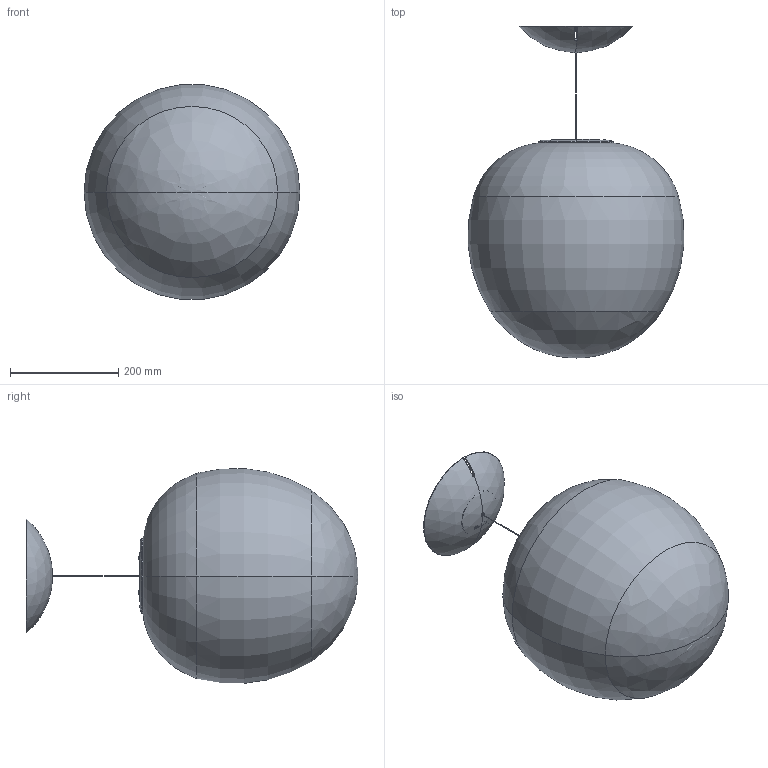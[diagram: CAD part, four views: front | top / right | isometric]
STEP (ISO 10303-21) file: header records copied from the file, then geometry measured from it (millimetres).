
FILE_DESCRIPTION (( 'STEP AP214' ), '1' );
FILE_NAME ('244_XL_S_LD_3D.STEP', '2021-05-04T07:43:39', ( '' ), ( '' ), 'SwSTEP 2.0', 'SolidWorks 2021', '' );
FILE_SCHEMA (( 'AUTOMOTIVE_DESIGN' ));
Length unit declared in the file: millimetre
Products named in the file (1): 244_XL_S_LD_3D
Bounding box: 398.45 x 612.6 x 396.27 mm (x, y, z)
Volume: 2653008.1 mm3; surface area: 1134467.3 mm2
Topology: 8 solids, 8 shells, 2285 faces, 5892 edges, 3654 vertices
Faces by surface type: bspline 981, plane 545, cylinder 481, cone 175, torus 76, sphere 27
Entity records: 150113 total; most frequent: CARTESIAN_POINT 79791, ORIENTED_EDGE 11736, EDGE_CURVE 5868, DIRECTION 5460, VERTEX_POINT 3654, B_SPLINE_CURVE_WITH_KNOTS 3559, EDGE_LOOP 2376, UNCERTAINTY_MEASURE_WITH_UNIT 2295
